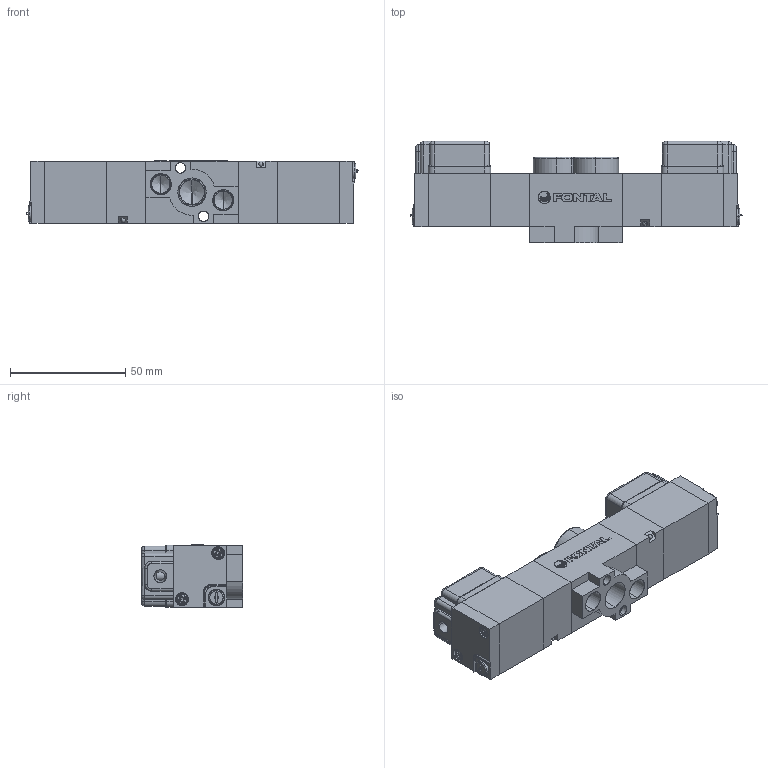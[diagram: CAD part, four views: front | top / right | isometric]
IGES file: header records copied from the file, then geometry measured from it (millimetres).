
Start section: SolidWorks IGES file using analytic representation for surfaces
Global section: file name: D:\Custom\3D繪製\PC\RC06\RCD2406-02-#G##.IGS,1; native system: 5HSolidWorks 2014; preprocessor: SolidWorks 2014; author: Chieh_Lu; date: 150803.214726; units: millimetre
Bounding box: 143.95 x 44 x 27.15 mm (x, y, z)
Surface area: 37028.9 mm2 (no closed solid volume)
Topology: 0 solids, 0 shells, 655 faces, 6310 edges, 6274 vertices
Faces by surface type: bspline 394, revolution 261
